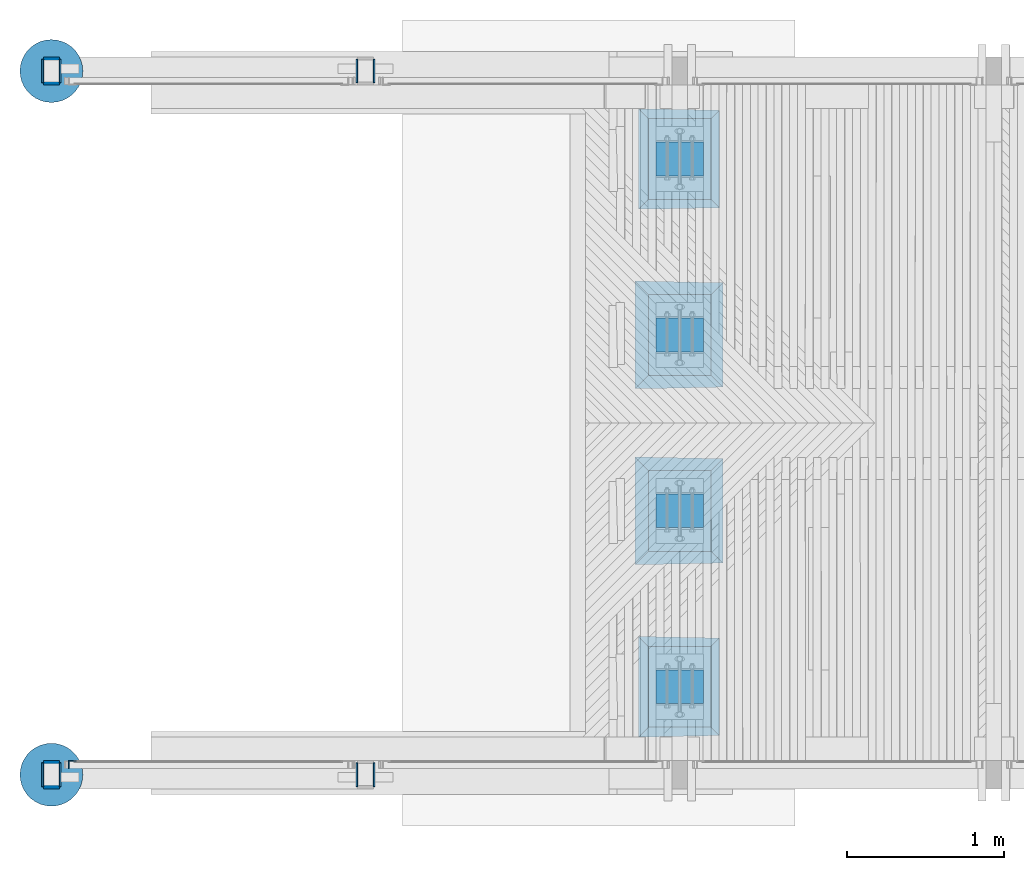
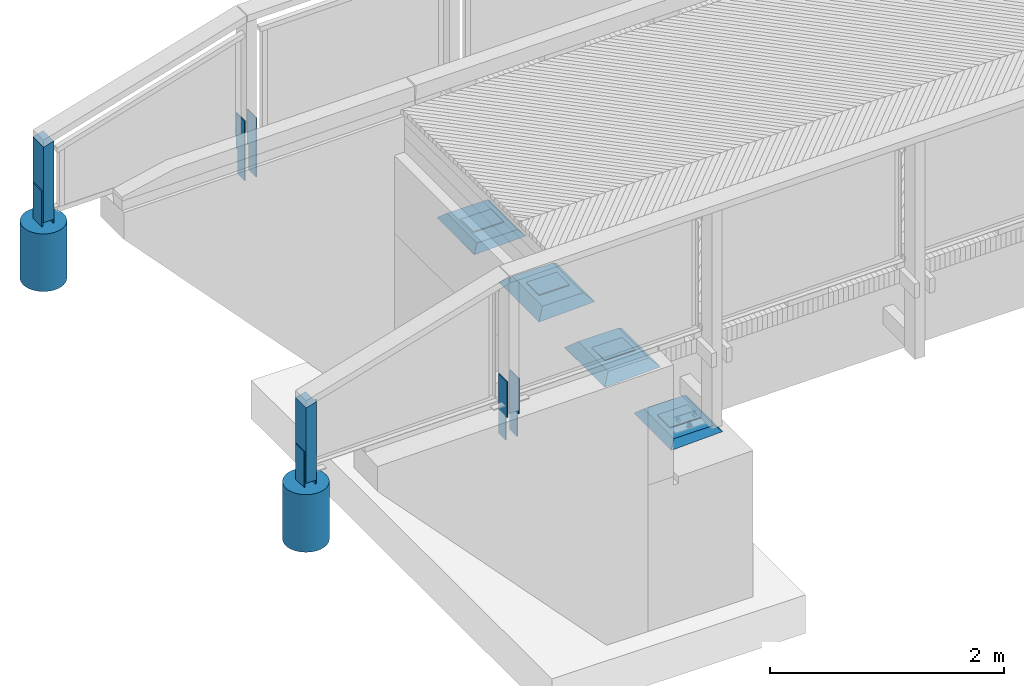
# One storey, part 12 of 65: 21 columns.
"""IFC2X3 building model written with IfcOpenShell, lengths in millimetres."""

import ifcopenshell
import ifcopenshell.guid

model = None  # the IFC model being written
_history = None  # IfcOwnerHistory: only IFC2X3 demands one
_inside = {}  # id of a spatial element -> (the spatial element, [elements in it])
_under = {}  # id of a project, library or spatial element -> (it, [spatial elements below it])
_declared = {}  # id of a project -> (the project, [libraries it declares])
_typed = {}  # id of a type object -> (the type object, [elements of that type])
_made_of = {}  # id of a material, layer set ... -> (it, [elements and type objects made of it])


def new_model(schema):
    """Start an empty IFC model of exactly this schema.

    Asked for "IFC4X3", IfcOpenShell would pick the latest addendum, in which some entities
    have other attributes; the version numbers below select the first issue.
    IFC2X3 requires an IfcOwnerHistory on every rooted entity: one is made here for all.
    """
    global model, _history
    if schema == "IFC4X3":
        model = ifcopenshell.file(schema_version=(4, 3, 0, 0))
    else:
        model = ifcopenshell.file(schema=schema)
    _inside.clear()
    _under.clear()
    _declared.clear()
    _typed.clear()
    _made_of.clear()
    _history = None
    if model.schema == "IFC2X3":
        org = make("IfcOrganization", Name="unknown")
        user = make(
            "IfcPersonAndOrganization",
            ThePerson=make("IfcPerson", FamilyName="unknown"),
            TheOrganization=org,
        )
        app = make(
            "IfcApplication",
            ApplicationDeveloper=org,
            Version="unknown",
            ApplicationFullName="unknown",
            ApplicationIdentifier="unknown",
        )
        _history = make(
            "IfcOwnerHistory",
            OwningUser=user,
            OwningApplication=app,
            ChangeAction="ADDED",
            CreationDate=0,
        )
    return model


def make(cls, **values):
    """One entity of the class cls with the attributes given. An attribute that is None is left unset."""
    return model.create_entity(
        cls, **{name: value for name, value in values.items() if value is not None}
    )


def rooted(cls, **values):
    """An entity with a GlobalId (a new one), such as an element, a storey or a relation."""
    return make(cls, GlobalId=ifcopenshell.guid.new(), OwnerHistory=_history, **values)


def si_unit(unit_type, name, prefix=None):
    """IfcSIUnit, for example si_unit("LENGTHUNIT", "METRE", prefix="MILLI")."""
    return make("IfcSIUnit", UnitType=unit_type, Prefix=prefix, Name=name)


def assignment(units):
    """IfcUnitAssignment: the units of a project."""
    return None if units is None else make("IfcUnitAssignment", Units=units)


def point(xyz):
    """IfcCartesianPoint."""
    return None if xyz is None else make("IfcCartesianPoint", Coordinates=xyz)


def direction(xyz):
    """IfcDirection."""
    return None if xyz is None else make("IfcDirection", DirectionRatios=xyz)


def frame(location, z_axis=None, x_axis=None):
    """IfcAxis2Placement3D, a coordinate frame: its origin and axes. An axis left out is left unset."""
    return make(
        "IfcAxis2Placement3D",
        Location=point(location),
        Axis=direction(z_axis),
        RefDirection=direction(x_axis),
    )


def origin_with_axes():
    """The frame at (0, 0, 0) with the z axis (0, 0, 1) and the x axis (1, 0, 0) written out."""
    return frame((0.0, 0.0, 0.0), z_axis=(0.0, 0.0, 1.0), x_axis=(1.0, 0.0, 0.0))


def place(relative_to, where):
    """IfcLocalPlacement: puts the frame where relative to a parent placement (None: the world)."""
    return make(
        "IfcLocalPlacement", PlacementRelTo=relative_to, RelativePlacement=where
    )


def context(
    kind, dimensions, precision=None, world=None, true_north=None, identifier=None
):
    """IfcGeometricRepresentationContext, for example the 3D "Model" context."""
    return make(
        "IfcGeometricRepresentationContext",
        ContextIdentifier=identifier,
        ContextType=kind,
        CoordinateSpaceDimension=dimensions,
        Precision=precision,
        WorldCoordinateSystem=world,
        TrueNorth=true_north,
    )


def subcontext(parent, identifier, kind, view, scale=None):
    """IfcGeometricRepresentationSubContext, for example "Body" below "Model"."""
    return make(
        "IfcGeometricRepresentationSubContext",
        ContextIdentifier=identifier,
        ContextType=kind,
        ParentContext=parent,
        TargetScale=scale,
        TargetView=view,
    )


def project(units=None, contexts=None):
    """IfcProject with its units and contexts."""
    return rooted(
        "IfcProject",
        Name="project",
        RepresentationContexts=contexts,
        UnitsInContext=assignment(units),
    )


def spatial(cls, under=None, at=None, **own):
    """A site, building, storey or space (cls), placed at a placement, below another one or the project."""
    s = rooted(cls, ObjectPlacement=at, **own)
    if under is not None:
        _under.setdefault(under.id(), (under, []))[1].append(s)
    return s


def faces_of(points, faces, orient=None, outer=None):
    """IfcFace entities. A face is a list of loops; a loop is a list of indices into points, from 0.

    orient and outer hold one flag for each loop. By default every Orientation is true, the
    first loop of a face is its IfcFaceOuterBound and the others are IfcFaceBound.
    """
    made = []
    for i, loops in enumerate(faces):
        bounds = []
        for j, loop in enumerate(loops):
            is_outer = j == 0 if outer is None else outer[i][j]
            bounds.append(
                make(
                    "IfcFaceOuterBound" if is_outer else "IfcFaceBound",
                    Bound=make("IfcPolyLoop", Polygon=[points[k] for k in loop]),
                    Orientation=True if orient is None else orient[i][j],
                )
            )
        made.append(make("IfcFace", Bounds=bounds))
    return made


def faceted_brep(points, faces, orient=None, outer=None, voids=None):
    """IfcFacetedBrep: a solid bounded by flat faces; with voids (closed shells), ...WithVoids."""
    shared = [point(p) for p in points]
    hull = make("IfcClosedShell", CfsFaces=faces_of(shared, faces, orient, outer))
    if voids is None:
        return make("IfcFacetedBrep", Outer=hull)
    return make(
        "IfcFacetedBrepWithVoids",
        Outer=hull,
        Voids=[
            make(cls, CfsFaces=faces_of(shared, fs, o, b)) for cls, fs, o, b in voids
        ],
    )


def shape(context_of_items, identifier, shape_type, items):
    """IfcShapeRepresentation: the items that make up one representation, for example the "Body"."""
    return make(
        "IfcShapeRepresentation",
        ContextOfItems=context_of_items,
        RepresentationIdentifier=identifier,
        RepresentationType=shape_type,
        Items=items,
    )


def material(Name=None, Category=None):
    """IfcMaterial."""
    return make("IfcMaterial", Name=Name, Category=Category)


def made_of(thing, what):
    """Note that an element or type object is made of a material, layer set ...; save() writes the relation."""
    if what is not None:
        _made_of.setdefault(what.id(), (what, []))[1].append(thing)
    return thing


def type_object(cls, material=None, **own):
    """A type object (cls), such as IfcWallType, which elements share."""
    return made_of(rooted(cls, **own), material)


def element(
    cls,
    number,
    at=None,
    inside=None,
    cuts=None,
    type_object=None,
    material=None,
    context=None,
    identifier="Body",
    shape_type=None,
    held_by="IfcProductDefinitionShape",
    body=None,
    shapes=None,
    **own,
):
    """One element of the class cls, such as IfcWall. Its Tag is "e" and its number.

    at: its placement. inside: the storey or other place that contains it. cuts: it is an
    opening in that element (IfcRelVoidsElement). A single representation is given by context,
    identifier, shape_type and body (its items); several are given by shapes. held_by: the class
    of the entity that holds the representations. save() writes the other relations.
    """
    e = rooted(cls, Tag="e%d" % number, ObjectPlacement=at, **own)
    if body is not None:
        shapes = [shape(context, identifier, shape_type, body)]
    if shapes is not None:
        e.Representation = make(held_by, Representations=shapes)
    if inside is not None:
        _inside.setdefault(inside.id(), (inside, []))[1].append(e)
    if cuts is not None:
        rooted(
            "IfcRelVoidsElement", RelatingBuildingElement=cuts, RelatedOpeningElement=e
        )
    if type_object is not None:
        _typed.setdefault(type_object.id(), (type_object, []))[1].append(e)
    return made_of(e, material)


def aggregate(whole, parts):
    """IfcRelAggregates: a whole, such as a stair, and the parts it consists of."""
    return rooted("IfcRelAggregates", RelatingObject=whole, RelatedObjects=parts)


def save(model, path):
    """Write the relations noted so far, then the file.

    IfcRelAggregates (storeys below a building ...), IfcRelContainedInSpatialStructure (elements
    in a storey), IfcRelDefinesByType, IfcRelAssociatesMaterial and IfcRelDeclares: one each for
    every whole, place, type object, material and project.
    """
    for whole, parts in _under.values():
        aggregate(whole, parts)
    for where, things in _inside.values():
        rooted(
            "IfcRelContainedInSpatialStructure",
            RelatedElements=things,
            RelatingStructure=where,
        )
    for kind, things in _typed.values():
        rooted("IfcRelDefinesByType", RelatedObjects=things, RelatingType=kind)
    for what, things in _made_of.values():
        rooted("IfcRelAssociatesMaterial", RelatedObjects=things, RelatingMaterial=what)
    for by, libraries in _declared.values():
        rooted("IfcRelDeclares", RelatingContext=by, RelatedDefinitions=libraries)
    model.write(path)


model = new_model("IFC2X3")

# Units and contexts
model_context = context("Model", 3, precision=1e-05, world=origin_with_axes())
body_context = subcontext(model_context, "Body", "Model", "MODEL_VIEW")
ifc_project = project(units=[si_unit("LENGTHUNIT", "METRE", prefix="MILLI"), si_unit("AREAUNIT", "SQUARE_METRE"), si_unit("VOLUMEUNIT", "CUBIC_METRE"), si_unit("MASSUNIT", "GRAM", prefix="KILO"), si_unit("TIMEUNIT", "SECOND"), si_unit("PLANEANGLEUNIT", "RADIAN"), si_unit("SOLIDANGLEUNIT", "STERADIAN"), si_unit("THERMODYNAMICTEMPERATUREUNIT", "DEGREE_CELSIUS"), si_unit("LUMINOUSINTENSITYUNIT", "LUMEN")], contexts=[model_context])

# Site, building, storey
site_placement = place(None, origin_with_axes())
site = spatial("IfcSite", under=ifc_project, at=site_placement, Name="Undefined", CompositionType="ELEMENT")
building_placement = place(site_placement, origin_with_axes())
building = spatial("IfcBuilding", under=site, at=building_placement, Name="Undefined", CompositionType="ELEMENT")
storey_placement = place(building_placement, origin_with_axes())
storey = spatial("IfcBuildingStorey", under=building, at=storey_placement, Name="Undefined", CompositionType="ELEMENT", Elevation=0.0)

# Columns
ifc_material_1 = material(Name="STEEL/AISI316")
column_type_1 = type_object("IfcColumnType", Name="PL150*10", PredefinedType="NOTDEFINED")
for number, where, z_axis, x_axis in (
    (1, (-3944.99999987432, 20125.0, 2794.56000000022), (0.0, 1.0, 0.0), (0.0, 0.0, 1.0)),
    (2, (-1944.99999987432, 20125.0, 2822.67000000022), (0.0, 1.0, 0.0), (0.0, 0.0, 1.0)),
    (3, (-4054.99999987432, 20125.0, 2794.56000000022), (0.0, 1.0, 0.0), (0.0, 0.0, 1.0)),
    (4, (-2054.99999987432, 20125.0, 2822.67000000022), (0.0, 1.0, 0.0), (0.0, 0.0, 1.0)),
):
    element("IfcColumn", number, at=place(storey_placement, frame(where, z_axis=z_axis, x_axis=x_axis)), inside=storey, type_object=column_type_1, material=ifc_material_1, Name="KAIDEPYLVÄS", ObjectType="PL150*10", context=body_context, shape_type="Brep", body=[
        faceted_brep([(250.0, 5.0, -50.0), (250.0, -5.0, -50.0), (0.0, -5.0, -50.0), (0.0, 5.0, -50.0), (250.0, 5.0, -75.0), (250.0, -5.0, -75.0), (620.0, -5.0, 75.0), (620.0, -5.0, -75.0), (620.0, 5.0, -75.0), (620.0, 5.0, 75.0), (0.0, 5.0, 75.0), (0.0, -5.0, 75.0)], [[[0, 1, 2, 3]], [[4, 5, 1, 0]], [[6, 7, 8, 9]], [[10, 11, 6, 9]], [[11, 10, 3, 2]], [[7, 6, 11, 2, 1, 5]], [[8, 7, 5, 4]], [[10, 9, 8, 4, 0, 3]]]),
    ])
for number, where, z_axis, x_axis in (
    (5, (-3944.99999987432, 24605.0000000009, 2794.56000000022), (0.0, -1.0, 0.0), (0.0, 0.0, 1.0)),
    (6, (-1944.99999987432, 24605.0000000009, 2822.67000000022), (0.0, -1.0, 0.0), (0.0, 0.0, 1.0)),
    (7, (-4054.99999987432, 24605.0000000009, 2794.56000000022), (0.0, -1.0, 0.0), (0.0, 0.0, 1.0)),
    (8, (-2054.99999987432, 24605.0000000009, 2822.67000000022), (0.0, -1.0, 0.0), (0.0, 0.0, 1.0)),
):
    element("IfcColumn", number, at=place(storey_placement, frame(where, z_axis=z_axis, x_axis=x_axis)), inside=storey, type_object=column_type_1, material=ifc_material_1, Name="KAIDEPYLVÄS", ObjectType="PL150*10", context=body_context, shape_type="Brep", body=[
        faceted_brep([(250.0, 5.0, -50.0), (250.0, -5.0, -50.0), (0.0, -5.0, -50.0), (0.0, 5.0, -50.0), (250.0, 5.0, -75.0), (250.0, -5.0, -75.0), (0.0, 5.0, 75.0), (0.0, -5.0, 75.0), (620.0, -5.0, 75.0), (620.0, 5.0, 75.0), (620.0, -5.0, -75.0), (620.0, 5.0, -75.0)], [[[0, 1, 2, 3]], [[4, 5, 1, 0]], [[6, 7, 8, 9]], [[8, 10, 11, 9]], [[11, 10, 5, 4]], [[6, 9, 11, 4, 0, 3]], [[7, 6, 3, 2]], [[10, 8, 7, 2, 1, 5]]]),
    ])
ifc_material_2 = material(Name="TIMBER/Timber_Undefined")
column_type_2 = type_object("IfcColumnType", Name="180*100", PredefinedType="NOTDEFINED")
column_1_placement = place(storey_placement, frame((-3999.99999924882, 24604.9879080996, 3109.68000000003), z_axis=(0.0, -1.0, 0.0), x_axis=(0.0, 0.0, 1.0)))
element("IfcColumn", 9, at=column_1_placement, inside=storey, type_object=column_type_2, material=ifc_material_2, Name="KAIDEPYLVÄS", ObjectType="180*100", context=body_context, shape_type="Brep", body=[
    faceted_brep([(-15.1200000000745, 50.0, -90.0), (-15.1200000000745, 50.0, 90.0), (771.050236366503, 50.0, 90.0), (771.050236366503, 50.0, -90.0), (-15.1200000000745, -50.0, 90.0), (800.720209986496, -50.0, 90.0), (-15.1200000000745, -50.0, -90.0), (800.720209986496, -50.0, -90.0)], [[[0, 1, 2, 3]], [[1, 4, 5, 2]], [[4, 6, 7, 5]], [[6, 0, 3, 7]], [[5, 7, 3, 2]], [[6, 4, 1, 0]]]),
])
column_2_placement = place(storey_placement, frame((-3999.99999924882, 20125.0120919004, 3109.68000000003), z_axis=(0.0, 1.0, 0.0), x_axis=(0.0, 0.0, 1.0)))
element("IfcColumn", 10, at=column_2_placement, inside=storey, type_object=column_type_2, material=ifc_material_2, Name="KAIDEPYLVÄS", ObjectType="180*100", context=body_context, shape_type="Brep", body=[
    faceted_brep([(-15.1200000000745, 50.0, -90.0), (-15.1200000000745, 50.0, 90.0), (800.720209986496, 50.0, 90.0), (800.720209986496, 50.0, -90.0), (-15.1200000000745, -50.0, 90.0), (771.050236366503, -50.0, 90.0), (-15.1200000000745, -50.0, -90.0), (771.050236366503, -50.0, -90.0)], [[[0, 1, 2, 3]], [[1, 4, 5, 2]], [[4, 6, 7, 5]], [[6, 0, 3, 7]], [[5, 7, 3, 2]], [[6, 4, 1, 0]]]),
])
ifc_material_3 = material(Name="CONCRETE/Concrete_Undefined")
column_type_3 = type_object("IfcColumnType", Name="D400", PredefinedType="NOTDEFINED")
column_3_placement = place(storey_placement, frame((-3999.99999953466, 24604.9858270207, 2444.55999999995), z_axis=(-1.0, 0.0, 0.0), x_axis=(0.0, 0.0, 1.0)))
element("IfcColumn", 11, at=column_3_placement, inside=storey, type_object=column_type_3, material=ifc_material_3, Name="COLUMN", ObjectType="D400", context=body_context, shape_type="Brep", body=[
    faceted_brep([(0.0, -200.0, 0.0), (0.0, -196.961550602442, -34.7296355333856), (600.0, -196.961550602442, -34.7296355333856), (600.0, -200.0, 0.0), (0.0, -187.93852415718, -68.4040286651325), (600.0, -187.93852415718, -68.4040286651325), (0.0, -173.205080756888, -100.0), (600.0, -173.205080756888, -100.0), (0.0, -153.208888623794, -128.55752193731), (600.0, -153.208888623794, -128.55752193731), (0.0, -128.55752193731, -153.208888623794), (600.0, -128.55752193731, -153.208888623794), (0.0, -100.0, -173.205080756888), (600.0, -100.0, -173.205080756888), (0.0, -68.4040286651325, -187.93852415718), (600.0, -68.4040286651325, -187.93852415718), (0.0, -34.7296355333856, -196.961550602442), (600.0, -34.7296355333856, -196.961550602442), (0.0, 0.0, -200.0), (600.0, 0.0, -200.0), (0.0, 34.7296355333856, -196.961550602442), (600.0, 34.7296355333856, -196.961550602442), (0.0, 68.4040286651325, -187.93852415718), (600.0, 68.4040286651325, -187.93852415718), (0.0, 100.0, -173.205080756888), (600.0, 100.0, -173.205080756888), (0.0, 128.55752193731, -153.208888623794), (600.0, 128.55752193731, -153.208888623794), (0.0, 153.208888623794, -128.55752193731), (600.0, 153.208888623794, -128.55752193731), (0.0, 173.205080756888, -100.0), (600.0, 173.205080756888, -100.0), (0.0, 187.93852415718, -68.4040286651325), (600.0, 187.93852415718, -68.4040286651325), (0.0, 196.961550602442, -34.7296355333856), (600.0, 196.961550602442, -34.7296355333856), (0.0, 200.0, 0.0), (600.0, 200.0, 0.0), (0.0, 196.961550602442, 34.7296355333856), (600.0, 196.961550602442, 34.7296355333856), (0.0, 187.93852415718, 68.4040286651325), (600.0, 187.93852415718, 68.4040286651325), (0.0, 173.205080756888, 100.0), (600.0, 173.205080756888, 100.0), (0.0, 153.208888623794, 128.55752193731), (600.0, 153.208888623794, 128.55752193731), (0.0, 128.55752193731, 153.208888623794), (600.0, 128.55752193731, 153.208888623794), (0.0, 100.0, 173.205080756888), (600.0, 100.0, 173.205080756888), (0.0, 68.4040286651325, 187.93852415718), (600.0, 68.4040286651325, 187.93852415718), (0.0, 34.7296355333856, 196.961550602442), (600.0, 34.7296355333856, 196.961550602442), (0.0, 0.0, 200.0), (600.0, 0.0, 200.0), (0.0, -34.7296355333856, 196.961550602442), (600.0, -34.7296355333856, 196.961550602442), (0.0, -68.4040286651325, 187.93852415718), (600.0, -68.4040286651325, 187.93852415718), (0.0, -100.0, 173.205080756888), (600.0, -100.0, 173.205080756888), (0.0, -128.55752193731, 153.208888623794), (600.0, -128.55752193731, 153.208888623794), (0.0, -153.208888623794, 128.55752193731), (600.0, -153.208888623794, 128.55752193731), (0.0, -173.205080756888, 100.0), (600.0, -173.205080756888, 100.0), (0.0, -187.93852415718, 68.4040286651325), (600.0, -187.93852415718, 68.4040286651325), (0.0, -196.961550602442, 34.7296355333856), (600.0, -196.961550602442, 34.7296355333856)], [[[0, 1, 2, 3]], [[1, 4, 5, 2]], [[4, 6, 7, 5]], [[6, 8, 9, 7]], [[8, 10, 11, 9]], [[10, 12, 13, 11]], [[12, 14, 15, 13]], [[14, 16, 17, 15]], [[16, 18, 19, 17]], [[18, 20, 21, 19]], [[20, 22, 23, 21]], [[22, 24, 25, 23]], [[24, 26, 27, 25]], [[26, 28, 29, 27]], [[28, 30, 31, 29]], [[30, 32, 33, 31]], [[32, 34, 35, 33]], [[34, 36, 37, 35]], [[36, 38, 39, 37]], [[38, 40, 41, 39]], [[40, 42, 43, 41]], [[42, 44, 45, 43]], [[44, 46, 47, 45]], [[46, 48, 49, 47]], [[48, 50, 51, 49]], [[50, 52, 53, 51]], [[52, 54, 55, 53]], [[54, 56, 57, 55]], [[56, 58, 59, 57]], [[58, 60, 61, 59]], [[60, 62, 63, 61]], [[62, 64, 65, 63]], [[64, 66, 67, 65]], [[66, 68, 69, 67]], [[68, 70, 71, 69]], [[70, 0, 3, 71]], [[5, 7, 9, 11, 13, 15, 17, 19, 21, 23, 25, 27, 29, 31, 33, 35, 37, 39, 41, 43, 45, 47, 49, 51, 53, 55, 57, 59, 61, 63, 65, 67, 69, 71, 3, 2]], [[70, 68, 66, 64, 62, 60, 58, 56, 54, 52, 50, 48, 46, 44, 42, 40, 38, 36, 34, 32, 30, 28, 26, 24, 22, 20, 18, 16, 14, 12, 10, 8, 6, 4, 1, 0]]]),
])
column_4_placement = place(storey_placement, frame((-3999.99999953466, 20125.0141729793, 2444.55999999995), z_axis=(-1.0, 0.0, 0.0), x_axis=(0.0, 0.0, 1.0)))
element("IfcColumn", 12, at=column_4_placement, inside=storey, type_object=column_type_3, material=ifc_material_3, Name="COLUMN", ObjectType="D400", context=body_context, shape_type="Brep", body=[
    faceted_brep([(0.0, -200.0, 0.0), (0.0, -196.961550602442, -34.7296355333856), (600.0, -196.961550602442, -34.7296355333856), (600.0, -200.0, 0.0), (0.0, -187.93852415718, -68.4040286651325), (600.0, -187.93852415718, -68.4040286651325), (0.0, -173.205080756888, -100.0), (600.0, -173.205080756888, -100.0), (0.0, -153.208888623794, -128.55752193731), (600.0, -153.208888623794, -128.55752193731), (0.0, -128.55752193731, -153.208888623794), (600.0, -128.55752193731, -153.208888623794), (0.0, -100.0, -173.205080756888), (600.0, -100.0, -173.205080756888), (0.0, -68.4040286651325, -187.93852415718), (600.0, -68.4040286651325, -187.93852415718), (0.0, -34.7296355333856, -196.961550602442), (600.0, -34.7296355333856, -196.961550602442), (0.0, 0.0, -200.0), (600.0, 0.0, -200.0), (0.0, 34.7296355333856, -196.961550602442), (600.0, 34.7296355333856, -196.961550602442), (0.0, 68.4040286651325, -187.93852415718), (600.0, 68.4040286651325, -187.93852415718), (0.0, 100.0, -173.205080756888), (600.0, 100.0, -173.205080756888), (0.0, 128.55752193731, -153.208888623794), (600.0, 128.55752193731, -153.208888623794), (0.0, 153.208888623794, -128.55752193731), (600.0, 153.208888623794, -128.55752193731), (0.0, 173.205080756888, -100.0), (600.0, 173.205080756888, -100.0), (0.0, 187.93852415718, -68.4040286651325), (600.0, 187.93852415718, -68.4040286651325), (0.0, 196.961550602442, -34.7296355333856), (600.0, 196.961550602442, -34.7296355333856), (0.0, 200.0, 0.0), (600.0, 200.0, 0.0), (0.0, 196.961550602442, 34.7296355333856), (600.0, 196.961550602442, 34.7296355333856), (0.0, 187.93852415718, 68.4040286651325), (600.0, 187.93852415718, 68.4040286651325), (0.0, 173.205080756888, 100.0), (600.0, 173.205080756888, 100.0), (0.0, 153.208888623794, 128.55752193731), (600.0, 153.208888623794, 128.55752193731), (0.0, 128.55752193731, 153.208888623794), (600.0, 128.55752193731, 153.208888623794), (0.0, 100.0, 173.205080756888), (600.0, 100.0, 173.205080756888), (0.0, 68.4040286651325, 187.93852415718), (600.0, 68.4040286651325, 187.93852415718), (0.0, 34.7296355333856, 196.961550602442), (600.0, 34.7296355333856, 196.961550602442), (0.0, 0.0, 200.0), (600.0, 0.0, 200.0), (0.0, -34.7296355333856, 196.961550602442), (600.0, -34.7296355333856, 196.961550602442), (0.0, -68.4040286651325, 187.93852415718), (600.0, -68.4040286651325, 187.93852415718), (0.0, -100.0, 173.205080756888), (600.0, -100.0, 173.205080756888), (0.0, -128.55752193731, 153.208888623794), (600.0, -128.55752193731, 153.208888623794), (0.0, -153.208888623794, 128.55752193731), (600.0, -153.208888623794, 128.55752193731), (0.0, -173.205080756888, 100.0), (600.0, -173.205080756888, 100.0), (0.0, -187.93852415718, 68.4040286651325), (600.0, -187.93852415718, 68.4040286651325), (0.0, -196.961550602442, 34.7296355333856), (600.0, -196.961550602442, 34.7296355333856)], [[[0, 1, 2, 3]], [[1, 4, 5, 2]], [[4, 6, 7, 5]], [[6, 8, 9, 7]], [[8, 10, 11, 9]], [[10, 12, 13, 11]], [[12, 14, 15, 13]], [[14, 16, 17, 15]], [[16, 18, 19, 17]], [[18, 20, 21, 19]], [[20, 22, 23, 21]], [[22, 24, 25, 23]], [[24, 26, 27, 25]], [[26, 28, 29, 27]], [[28, 30, 31, 29]], [[30, 32, 33, 31]], [[32, 34, 35, 33]], [[34, 36, 37, 35]], [[36, 38, 39, 37]], [[38, 40, 41, 39]], [[40, 42, 43, 41]], [[42, 44, 45, 43]], [[44, 46, 47, 45]], [[46, 48, 49, 47]], [[48, 50, 51, 49]], [[50, 52, 53, 51]], [[52, 54, 55, 53]], [[54, 56, 57, 55]], [[56, 58, 59, 57]], [[58, 60, 61, 59]], [[60, 62, 63, 61]], [[62, 64, 65, 63]], [[64, 66, 67, 65]], [[66, 68, 69, 67]], [[68, 70, 71, 69]], [[70, 0, 3, 71]], [[5, 7, 9, 11, 13, 15, 17, 19, 21, 23, 25, 27, 29, 31, 33, 35, 37, 39, 41, 43, 45, 47, 49, 51, 53, 55, 57, 59, 61, 63, 65, 67, 69, 71, 3, 2]], [[70, 68, 66, 64, 62, 60, 58, 56, 54, 52, 50, 48, 46, 44, 42, 40, 38, 36, 34, 32, 30, 28, 26, 24, 22, 20, 18, 16, 14, 12, 10, 8, 6, 4, 1, 0]]]),
])
ifc_material_4 = material(Name="STEEL/S235JR")
column_type_4 = type_object("IfcColumnType", Name="L50*5", PredefinedType="NOTDEFINED")
column_5_placement = place(storey_placement, frame((-3867.50116726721, 20190.01, 3205.30402133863), z_axis=(0.0, -1.0, 0.0), x_axis=(0.0, 0.0, 1.0)))
element("IfcColumn", 13, at=column_5_placement, inside=storey, type_object=column_type_4, material=ifc_material_4, Name="BEAM", ObjectType="L50*5", context=body_context, shape_type="Brep", body=[
    faceted_brep([(0.0, 25.0, -25.0), (0.0, 25.0, 25.0), (575.133453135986, 25.0, 25.0), (575.133453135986, 25.0, -25.0), (0.0, 20.0, 25.0), (576.626039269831, 20.0, 25.0), (0.0, 20.0, -20.0), (576.626039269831, 20.0, -20.0), (0.0, -25.0, -20.0), (590.05931447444, -25.0, -20.0), (0.0, -25.0, -25.0), (590.05931447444, -25.0, -25.0)], [[[0, 1, 2, 3]], [[1, 4, 5, 2]], [[4, 6, 7, 5]], [[6, 8, 9, 7]], [[8, 10, 11, 9]], [[10, 0, 3, 11]], [[5, 7, 9, 11, 3, 2]], [[10, 8, 6, 4, 1, 0]]]),
])
column_type_5 = type_object("IfcColumnType", Name="570*685", PredefinedType="NOTDEFINED")
for number, where, z_axis, x_axis, name in (
    (14, (0.0, 22925.0000000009, 1922.0), (-1.0, 0.0, 0.0), (0.0, 0.0, 1.0), "COLUMN"),
    (15, (0.0, 21805.0, 1922.0), (-1.0, 0.0, 0.0), (0.0, 0.0, 1.0), "COLUMN"),
):
    element("IfcColumn", number, at=place(storey_placement, frame(where, z_axis=z_axis, x_axis=x_axis)), inside=storey, type_object=column_type_5, material=ifc_material_3, Name=name, ObjectType="570*685", context=body_context, shape_type="Brep", body=[
        faceted_brep([(-9.52281374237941, -342.5, 285.0), (75.3299999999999, -257.647186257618, 200.147186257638), (75.3299999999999, 257.647186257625, 200.147186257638), (-9.52281374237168, 342.5, 285.0), (0.770343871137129, -332.20684238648, -274.706842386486), (-9.52281374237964, -342.5, 229.65787209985), (-10.6522449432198, -342.5, 285.0), (-10.6522449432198, 342.5, 285.0), (-9.52281374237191, 342.5, 229.657872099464), (0.770343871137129, 332.206842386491, -274.706842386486), (75.3299999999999, -257.647186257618, -200.147186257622), (75.3299999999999, 257.647186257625, -200.147186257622)], [[[0, 1, 2, 3]], [[4, 5, 6, 7, 8, 9]], [[10, 4, 9, 11]], [[10, 11, 2, 1]], [[5, 4, 10, 1, 0]], [[6, 5, 0]], [[7, 6, 0, 3]], [[7, 3, 8]], [[11, 9, 8, 3, 2]]]),
    ])
column_type_6 = type_object("IfcColumnType", Name="524*639", PredefinedType="NOTDEFINED")
for number, where, z_axis, x_axis, name in (
    (16, (0.0, 24045.0000000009, 1900.0), (-1.0, 0.0, 0.0), (0.0, 0.0, 1.0), "COLUMN"),
    (17, (0.0, 20685.0, 1900.0), (-1.0, 0.0, 0.0), (0.0, 0.0, 1.0), "COLUMN"),
):
    element("IfcColumn", number, at=place(storey_placement, frame(where, z_axis=z_axis, x_axis=x_axis)), inside=storey, type_object=column_type_6, material=ifc_material_3, Name=name, ObjectType="524*639", context=body_context, shape_type="Brep", body=[
        faceted_brep([(13.1046032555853, -319.5, 262.0), (75.3299999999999, -257.274603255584, 199.774603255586), (75.3299999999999, 257.274603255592, 199.774603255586), (13.1046032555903, 319.5, 262.0), (22.3220922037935, -310.282511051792, -252.782511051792), (13.1046032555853, -319.5, 198.87443973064), (11.816326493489, -319.5, 262.0), (11.816326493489, 319.5, 262.0), (13.1046032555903, 319.5, 198.874439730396), (22.3220922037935, 310.282511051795, -252.782511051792), (75.3299999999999, -257.274603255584, -199.774603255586), (75.3299999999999, 257.274603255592, -199.774603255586)], [[[0, 1, 2, 3]], [[4, 5, 6, 7, 8, 9]], [[10, 4, 9, 11]], [[10, 11, 2, 1]], [[5, 4, 10, 1, 0]], [[6, 5, 0]], [[7, 6, 0, 3]], [[7, 3, 8]], [[11, 9, 8, 3, 2]]]),
    ])
ifc_material_5 = material(Name="MISCELLANEOUS/NEOPREENI")
column_type_7 = type_object("IfcColumnType", Name="PL300*215", PredefinedType="NOTDEFINED")
for number, where, z_axis, x_axis, name in (
    (18, (0.0, 24045.0, 1975.33), (-1.0, 0.0, 0.0), (0.0, 0.0, 1.0), "COLUMN"),
    (19, (0.0, 22925.0, 1997.33), (-1.0, 0.0, 0.0), (0.0, 0.0, 1.0), "COLUMN"),
    (20, (0.0, 21805.0, 1997.33), (-1.0, 0.0, 0.0), (0.0, 0.0, 1.0), "COLUMN"),
    (21, (0.0, 20685.0, 1975.33), (-1.0, 0.0, 0.0), (0.0, 0.0, 1.0), "COLUMN"),
):
    element("IfcColumn", number, at=place(storey_placement, frame(where, z_axis=z_axis, x_axis=x_axis)), inside=storey, type_object=column_type_7, material=ifc_material_5, Name=name, ObjectType="PL300*215", context=body_context, shape_type="Brep", body=[
        faceted_brep([(0.0, 107.5, -150.0), (0.0, 107.5, 150.0), (10.0, 107.5, 150.0), (10.0, 107.5, -150.0), (0.0, -107.5, 150.0), (10.0, -107.5, 150.0), (0.0, -107.5, -150.0), (10.0, -107.5, -150.0)], [[[0, 1, 2, 3]], [[1, 4, 5, 2]], [[4, 6, 7, 5]], [[6, 0, 3, 7]], [[5, 7, 3, 2]], [[6, 4, 1, 0]]]),
    ])

save(model, "model.ifc")
